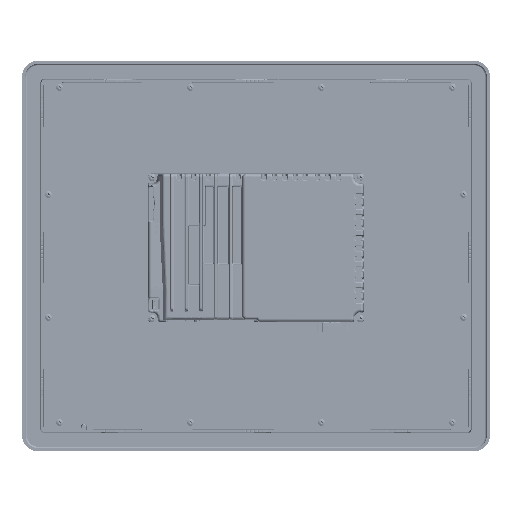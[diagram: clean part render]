
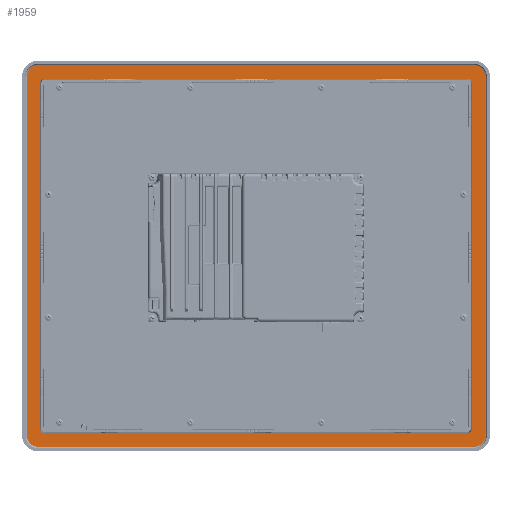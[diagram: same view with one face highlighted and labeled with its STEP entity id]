
A CAD part, top view. The second image highlights one B-rep face of the part: STEP entity #1959.
In plain terms, the highlighted planar face has unit normal (0, 0, 1).
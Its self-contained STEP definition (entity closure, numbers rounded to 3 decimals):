
#1575=DIRECTION('',(1.,0.,0.));
#1576=VECTOR('',#1575,345.1);
#1577=CARTESIAN_POINT('',(-172.55,-150.75,9.98));
#1578=LINE('',#1577,#1576);
#1643=CARTESIAN_POINT('',(-177.55,139.75,9.98));
#1644=DIRECTION('',(0.,0.,-1.));
#1645=DIRECTION('',(-1.,0.,0.));
#1646=AXIS2_PLACEMENT_3D('',#1643,#1644,#1645);
#1648=CARTESIAN_POINT('',(177.55,139.75,9.98));
#1649=DIRECTION('',(0.,0.,-1.));
#1650=DIRECTION('',(0.,1.,0.));
#1651=AXIS2_PLACEMENT_3D('',#1648,#1649,#1650);
#1653=CARTESIAN_POINT('',(177.55,-152.75,9.98));
#1654=DIRECTION('',(0.,0.,-1.));
#1655=DIRECTION('',(1.,0.,0.));
#1656=AXIS2_PLACEMENT_3D('',#1653,#1654,#1655);
#1658=CARTESIAN_POINT('',(-177.55,-152.75,9.98));
#1659=DIRECTION('',(0.,0.,-1.));
#1660=DIRECTION('',(0.,-1.,0.));
#1661=AXIS2_PLACEMENT_3D('',#1658,#1659,#1660);
#1663=CARTESIAN_POINT('',(-172.55,134.75,9.98));
#1664=DIRECTION('',(0.,0.,1.));
#1665=DIRECTION('',(0.,1.,0.));
#1666=AXIS2_PLACEMENT_3D('',#1663,#1664,#1665);
#1668=CARTESIAN_POINT('',(-172.55,-147.75,9.98));
#1669=DIRECTION('',(0.,0.,1.));
#1670=DIRECTION('',(-1.,0.,0.));
#1671=AXIS2_PLACEMENT_3D('',#1668,#1669,#1670);
#1673=CARTESIAN_POINT('',(172.55,-147.75,9.98));
#1674=DIRECTION('',(0.,0.,1.));
#1675=DIRECTION('',(0.,-1.,0.));
#1676=AXIS2_PLACEMENT_3D('',#1673,#1674,#1675);
#1678=CARTESIAN_POINT('',(172.55,134.75,9.98));
#1679=DIRECTION('',(0.,0.,1.));
#1680=DIRECTION('',(1.,0.,0.));
#1681=AXIS2_PLACEMENT_3D('',#1678,#1679,#1680);
#1683=DIRECTION('',(1.,0.,0.));
#1684=VECTOR('',#1683,355.1);
#1685=CARTESIAN_POINT('',(-177.55,148.75,9.98));
#1686=LINE('',#1685,#1684);
#1695=DIRECTION('',(0.,-1.,0.));
#1696=VECTOR('',#1695,292.5);
#1697=CARTESIAN_POINT('',(186.55,139.75,9.98));
#1698=LINE('',#1697,#1696);
#1707=DIRECTION('',(-1.,0.,0.));
#1708=VECTOR('',#1707,355.1);
#1709=CARTESIAN_POINT('',(177.55,-161.75,9.98));
#1710=LINE('',#1709,#1708);
#1719=DIRECTION('',(0.,1.,0.));
#1720=VECTOR('',#1719,292.5);
#1721=CARTESIAN_POINT('',(-186.55,-152.75,9.98));
#1722=LINE('',#1721,#1720);
#1727=DIRECTION('',(-1.,0.,0.));
#1728=VECTOR('',#1727,345.1);
#1729=CARTESIAN_POINT('',(172.55,137.75,9.98));
#1730=LINE('',#1729,#1728);
#1739=DIRECTION('',(0.,1.,0.));
#1740=VECTOR('',#1739,282.5);
#1741=CARTESIAN_POINT('',(175.55,-147.75,9.98));
#1742=LINE('',#1741,#1740);
#1767=DIRECTION('',(0.,-1.,0.));
#1768=VECTOR('',#1767,282.5);
#1769=CARTESIAN_POINT('',(-175.55,134.75,9.98));
#1770=LINE('',#1769,#1768);
#1771=CARTESIAN_POINT('',(-186.55,139.75,9.98));
#1772=CARTESIAN_POINT('',(-177.55,148.75,9.98));
#1773=VERTEX_POINT('',#1771);
#1774=VERTEX_POINT('',#1772);
#1775=CARTESIAN_POINT('',(-186.55,-152.75,9.98));
#1776=VERTEX_POINT('',#1775);
#1777=CARTESIAN_POINT('',(-177.55,-161.75,9.98));
#1778=VERTEX_POINT('',#1777);
#1779=CARTESIAN_POINT('',(177.55,-161.75,9.98));
#1780=VERTEX_POINT('',#1779);
#1781=CARTESIAN_POINT('',(186.55,-152.75,9.98));
#1782=VERTEX_POINT('',#1781);
#1783=CARTESIAN_POINT('',(186.55,139.75,9.98));
#1784=VERTEX_POINT('',#1783);
#1785=CARTESIAN_POINT('',(177.55,148.75,9.98));
#1786=VERTEX_POINT('',#1785);
#1787=CARTESIAN_POINT('',(172.55,137.75,9.98));
#1788=CARTESIAN_POINT('',(-172.55,137.75,9.98));
#1789=VERTEX_POINT('',#1787);
#1790=VERTEX_POINT('',#1788);
#1791=CARTESIAN_POINT('',(175.55,134.75,9.98));
#1792=VERTEX_POINT('',#1791);
#1793=CARTESIAN_POINT('',(175.55,-147.75,9.98));
#1794=VERTEX_POINT('',#1793);
#1795=CARTESIAN_POINT('',(172.55,-150.75,9.98));
#1796=VERTEX_POINT('',#1795);
#1797=CARTESIAN_POINT('',(-172.55,-150.75,9.98));
#1798=VERTEX_POINT('',#1797);
#1799=CARTESIAN_POINT('',(-175.55,-147.75,9.98));
#1800=VERTEX_POINT('',#1799);
#1801=CARTESIAN_POINT('',(-175.55,134.75,9.98));
#1802=VERTEX_POINT('',#1801);
#1921=CARTESIAN_POINT('',(0.,-6.5,9.98));
#1922=DIRECTION('',(0.,0.,1.));
#1923=DIRECTION('',(-1.,0.,0.));
#1924=AXIS2_PLACEMENT_3D('',#1921,#1922,#1923);
#1925=PLANE('',#1924);
#1926=ORIENTED_EDGE('',*,*,#1911,.T.);
#1928=ORIENTED_EDGE('',*,*,#1927,.T.);
#1930=ORIENTED_EDGE('',*,*,#1929,.T.);
#1932=ORIENTED_EDGE('',*,*,#1931,.T.);
#1934=ORIENTED_EDGE('',*,*,#1933,.T.);
#1936=ORIENTED_EDGE('',*,*,#1935,.T.);
#1938=ORIENTED_EDGE('',*,*,#1937,.T.);
#1940=ORIENTED_EDGE('',*,*,#1939,.T.);
#1941=EDGE_LOOP('',(#1926,#1928,#1930,#1932,#1934,#1936,#1938,#1940));
#1942=FACE_OUTER_BOUND('',#1941,.F.);
#1944=ORIENTED_EDGE('',*,*,#1943,.T.);
#1946=ORIENTED_EDGE('',*,*,#1945,.T.);
#1948=ORIENTED_EDGE('',*,*,#1947,.T.);
#1949=ORIENTED_EDGE('',*,*,#1842,.T.);
#1950=ORIENTED_EDGE('',*,*,#1861,.T.);
#1952=ORIENTED_EDGE('',*,*,#1951,.T.);
#1954=ORIENTED_EDGE('',*,*,#1953,.T.);
#1956=ORIENTED_EDGE('',*,*,#1955,.T.);
#1957=EDGE_LOOP('',(#1944,#1946,#1948,#1949,#1950,#1952,#1954,#1956));
#1958=FACE_BOUND('',#1957,.F.);
#1959=ADVANCED_FACE('',(#1942,#1958),#1925,.T.);
#1647=CIRCLE('',#1646,9.);
#1652=CIRCLE('',#1651,9.);
#1657=CIRCLE('',#1656,9.);
#1662=CIRCLE('',#1661,9.);
#1667=CIRCLE('',#1666,3.);
#1672=CIRCLE('',#1671,3.);
#1677=CIRCLE('',#1676,3.);
#1682=CIRCLE('',#1681,3.);
#1842=EDGE_CURVE('',#1800,#1798,#1672,.T.);
#1861=EDGE_CURVE('',#1798,#1796,#1578,.T.);
#1911=EDGE_CURVE('',#1773,#1774,#1647,.T.);
#1927=EDGE_CURVE('',#1774,#1786,#1686,.T.);
#1929=EDGE_CURVE('',#1786,#1784,#1652,.T.);
#1931=EDGE_CURVE('',#1784,#1782,#1698,.T.);
#1933=EDGE_CURVE('',#1782,#1780,#1657,.T.);
#1935=EDGE_CURVE('',#1780,#1778,#1710,.T.);
#1937=EDGE_CURVE('',#1778,#1776,#1662,.T.);
#1939=EDGE_CURVE('',#1776,#1773,#1722,.T.);
#1943=EDGE_CURVE('',#1789,#1790,#1730,.T.);
#1945=EDGE_CURVE('',#1790,#1802,#1667,.T.);
#1947=EDGE_CURVE('',#1802,#1800,#1770,.T.);
#1951=EDGE_CURVE('',#1796,#1794,#1677,.T.);
#1953=EDGE_CURVE('',#1794,#1792,#1742,.T.);
#1955=EDGE_CURVE('',#1792,#1789,#1682,.T.);
